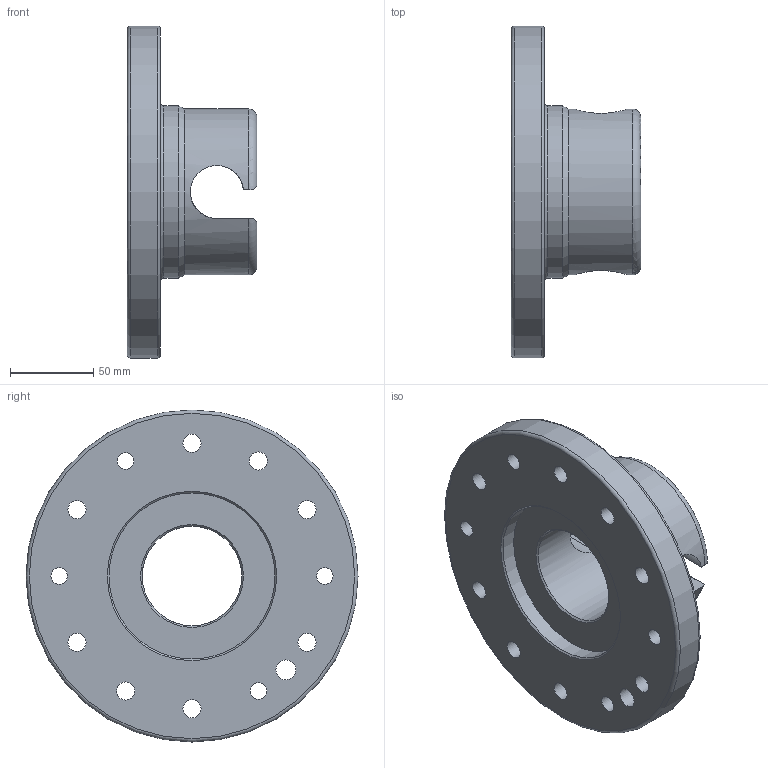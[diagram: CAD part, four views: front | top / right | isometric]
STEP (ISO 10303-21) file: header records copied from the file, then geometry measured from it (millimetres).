
FILE_DESCRIPTION(/* description */ (''),/* implementation_level */ '2;1');
FILE_NAME(/* name */ 'T:\G-SWS200-2U-N.stp',/* time_stamp */ '2022-05-25T10:55:05+02:00',/* author */ ('ysplieth'),/* organization */ (''),/* preprocessor_version */ 'ST-DEVELOPER v17',/* originating_system */ 'Autodesk Inventor 2018',/* authorisation */ '');
FILE_SCHEMA (('AUTOMOTIVE_DESIGN { 1 0 10303 214 3 1 1 }'));
Length unit declared in the file: millimetre
Products named in the file (1): G-SWS200-2U-N
Bounding box: 78 x 200 x 200 mm (x, y, z)
Volume: 739706.6 mm3; surface area: 109147.1 mm2
Topology: 1 solids, 1 shells, 59 faces, 167 edges, 119 vertices
Faces by surface type: cylinder 28, plane 21, torus 5, cone 5
Full cylindrical faces by diameter (mm): 10 x4, 11 x8, 12 x1, 18 x8, 60 x1, 100 x2, 104 x1, 200 x1
Entity records: 2347 total; most frequent: CARTESIAN_POINT 624, DIRECTION 369, ORIENTED_EDGE 334, EDGE_CURVE 167, AXIS2_PLACEMENT_3D 160, VERTEX_POINT 119, EDGE_LOOP 96, CIRCLE 96
